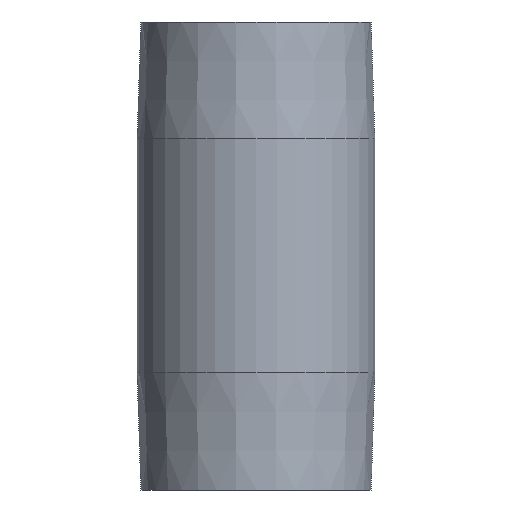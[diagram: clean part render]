
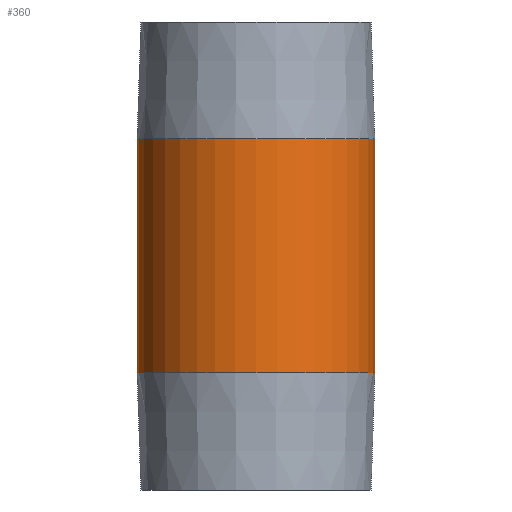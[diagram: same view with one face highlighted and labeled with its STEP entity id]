
A CAD part, front view. The second image highlights one B-rep face of the part: STEP entity #360.
In plain terms, the highlighted cylindrical face has radius 16 mm (diameter 32 mm), a partial arc.
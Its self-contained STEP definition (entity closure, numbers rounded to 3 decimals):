
#4 = EDGE_LOOP ( 'NONE', ( #298, #77, #395, #60 ) ) ;
#44 = VECTOR ( 'NONE', #364, 1000. ) ;
#52 = CARTESIAN_POINT ( 'NONE',  ( 16., 0., 15.75 ) ) ;
#53 = DIRECTION ( 'NONE',  ( -1., 0., 0. ) ) ;
#60 = ORIENTED_EDGE ( 'NONE', *, *, #297, .T. ) ;
#63 = CYLINDRICAL_SURFACE ( 'NONE', #299, 16. ) ;
#77 = ORIENTED_EDGE ( 'NONE', *, *, #378, .F. ) ;
#118 = DIRECTION ( 'NONE',  ( 0., 0., 1. ) ) ;
#122 = CARTESIAN_POINT ( 'NONE',  ( 0., 0., -15.75 ) ) ;
#149 = CARTESIAN_POINT ( 'NONE',  ( 0., 0., 15.75 ) ) ;
#159 = CARTESIAN_POINT ( 'NONE',  ( 16., 0., -15.75 ) ) ;
#183 = VERTEX_POINT ( 'NONE', #52 ) ;
#199 = DIRECTION ( 'NONE',  ( 0., 0., -1. ) ) ;
#211 = CARTESIAN_POINT ( 'NONE',  ( 16., 0., 31.5 ) ) ;
#221 = VECTOR ( 'NONE', #199, 1000. ) ;
#223 = EDGE_CURVE ( 'NONE', #183, #336, #317, .T. ) ;
#246 = VERTEX_POINT ( 'NONE', #316 ) ;
#250 = CIRCLE ( 'NONE', #256, 16. ) ;
#256 = AXIS2_PLACEMENT_3D ( 'NONE', #122, #285, #393 ) ;
#273 = EDGE_CURVE ( 'NONE', #459, #246, #424, .T. ) ;
#285 = DIRECTION ( 'NONE',  ( 0., 0., 1. ) ) ;
#297 = EDGE_CURVE ( 'NONE', #246, #336, #250, .T. ) ;
#298 = ORIENTED_EDGE ( 'NONE', *, *, #223, .F. ) ;
#299 = AXIS2_PLACEMENT_3D ( 'NONE', #384, #309, #53 ) ;
#309 = DIRECTION ( 'NONE',  ( 0., 0., -1. ) ) ;
#311 = FACE_OUTER_BOUND ( 'NONE', #4, .T. ) ;
#315 = CARTESIAN_POINT ( 'NONE',  ( -16., 0., 15.75 ) ) ;
#316 = CARTESIAN_POINT ( 'NONE',  ( -16., 0., -15.75 ) ) ;
#317 = LINE ( 'NONE', #211, #44 ) ;
#324 = AXIS2_PLACEMENT_3D ( 'NONE', #149, #118, #426 ) ;
#336 = VERTEX_POINT ( 'NONE', #159 ) ;
#360 = ADVANCED_FACE ( 'NONE', ( #311 ), #63, .T. ) ;
#364 = DIRECTION ( 'NONE',  ( 0., 0., -1. ) ) ;
#378 = EDGE_CURVE ( 'NONE', #459, #183, #416, .T. ) ;
#384 = CARTESIAN_POINT ( 'NONE',  ( 0., 0., 31.5 ) ) ;
#393 = DIRECTION ( 'NONE',  ( 1., 0., 0. ) ) ;
#395 = ORIENTED_EDGE ( 'NONE', *, *, #273, .T. ) ;
#408 = CARTESIAN_POINT ( 'NONE',  ( -16., 0., 31.5 ) ) ;
#416 = CIRCLE ( 'NONE', #324, 16. ) ;
#424 = LINE ( 'NONE', #408, #221 ) ;
#426 = DIRECTION ( 'NONE',  ( 1., 0., 0. ) ) ;
#459 = VERTEX_POINT ( 'NONE', #315 ) ;
